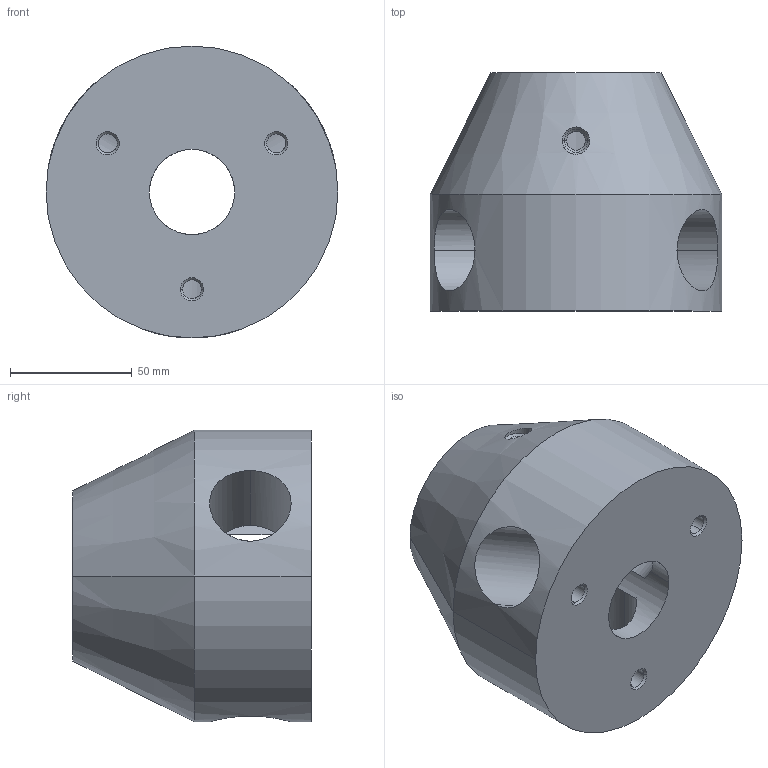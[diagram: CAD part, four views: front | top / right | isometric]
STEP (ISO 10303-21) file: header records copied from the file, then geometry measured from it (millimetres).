
FILE_DESCRIPTION(/* description */ ('VariCAD 2010-2.03 AP-203'),/* implementation_level */ '2;1');
FILE_NAME(/* name */ '0353-40-22',/* time_stamp */ '2010-10-04T00:09:36-06:00',/* author */ (''),/* organization */ (''),/* preprocessor_version */ 'ST-DEVELOPER v12',/* originating_system */ 'VariCAD 2010-2.03; kernel version (20100102)',/* authorisation */ '');
FILE_SCHEMA (('CONFIG_CONTROL_DESIGN'));
Length unit declared in the file: millimetre
Products named in the file (1): Part
Bounding box: 120 x 98 x 120 mm (x, y, z)
Volume: 592355.2 mm3; surface area: 75462.9 mm2
Topology: 5 solids, 5 shells, 63 faces, 152 edges, 94 vertices
Faces by surface type: cylinder 42, cone 12, plane 9
Entity records: 2469 total; most frequent: CARTESIAN_POINT 936, ORIENTED_EDGE 304, DIRECTION 300, EDGE_CURVE 152, AXIS2_PLACEMENT_3D 121, VERTEX_POINT 94, EDGE_LOOP 82, ADVANCED_FACE 63
